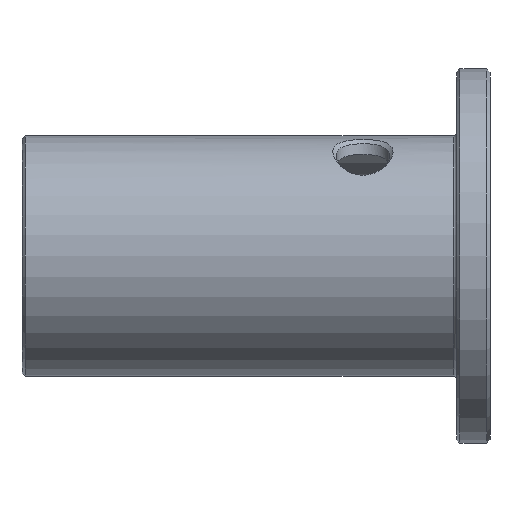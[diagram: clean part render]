
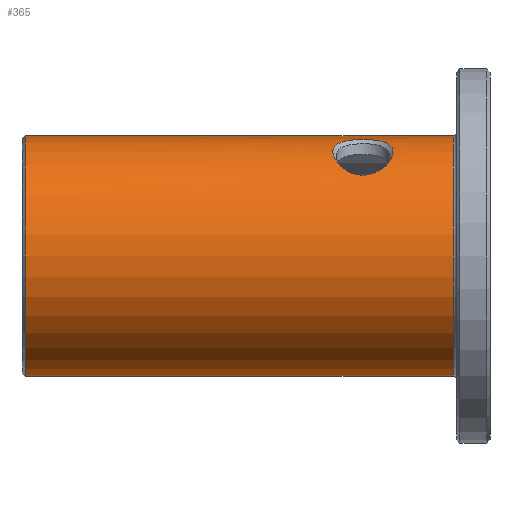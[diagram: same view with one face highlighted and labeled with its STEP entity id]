
A CAD part, left-side view. The second image highlights one B-rep face of the part: STEP entity #365.
In plain terms, the highlighted cylindrical face has radius 18 mm (diameter 36 mm), a full revolution.
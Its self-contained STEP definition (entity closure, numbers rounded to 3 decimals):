
#34=CIRCLE('',#397,18.);
#35=CIRCLE('',#398,18.);
#67=FACE_BOUND('',#149,.T.);
#68=FACE_BOUND('',#150,.T.);
#106=CYLINDRICAL_SURFACE('',#396,18.);
#117=FACE_OUTER_BOUND('',#148,.T.);
#148=EDGE_LOOP('',(#296));
#149=EDGE_LOOP('',(#297));
#150=EDGE_LOOP('',(#298));
#215=B_SPLINE_CURVE_WITH_KNOTS('',3,(#695,#696,#697,#698,#699,#700,#701,
#702,#703,#704,#705,#706,#707,#708,#709,#710,#711,#712,#713,#714,#715,#716),
 .UNSPECIFIED.,.T.,.F.,(4,1,1,1,1,1,1,1,1,1,1,1,1,1,1,1,1,1,1,4),(-2.633,
-2.445,-2.351,-2.257,-2.069,
-1.881,-1.693,-1.599,-1.505,
-1.379,-1.254,-1.129,-1.003,
-0.878,-0.752,-0.564,-0.376,
-0.188,-0.141,0.),
 .UNSPECIFIED.);
#219=VERTEX_POINT('',#670);
#222=VERTEX_POINT('',#758);
#223=VERTEX_POINT('',#760);
#256=EDGE_CURVE('',#219,#219,#215,.T.);
#258=EDGE_CURVE('',#222,#222,#34,.T.);
#259=EDGE_CURVE('',#223,#223,#35,.T.);
#296=ORIENTED_EDGE('',*,*,#258,.F.);
#297=ORIENTED_EDGE('',*,*,#259,.F.);
#298=ORIENTED_EDGE('',*,*,#256,.F.);
#365=ADVANCED_FACE('',(#117,#67,#68),#106,.T.);
#396=AXIS2_PLACEMENT_3D('',#757,#461,#462);
#397=AXIS2_PLACEMENT_3D('',#759,#463,#464);
#398=AXIS2_PLACEMENT_3D('',#761,#465,#466);
#461=DIRECTION('center_axis',(0.,1.,0.));
#462=DIRECTION('ref_axis',(0.,0.,1.));
#463=DIRECTION('center_axis',(0.,-1.,0.));
#464=DIRECTION('ref_axis',(0.,0.,-1.));
#465=DIRECTION('center_axis',(0.,1.,0.));
#466=DIRECTION('ref_axis',(0.,0.,-1.));
#670=CARTESIAN_POINT('',(-4.518,14.,17.424));
#695=CARTESIAN_POINT('Ctrl Pts',(-4.517,14.,17.424));
#696=CARTESIAN_POINT('Ctrl Pts',(-4.516,14.709,17.424));
#697=CARTESIAN_POINT('Ctrl Pts',(-4.799,15.858,17.357));
#698=CARTESIAN_POINT('Ctrl Pts',(-5.653,17.043,17.094));
#699=CARTESIAN_POINT('Ctrl Pts',(-6.685,17.965,16.735));
#700=CARTESIAN_POINT('Ctrl Pts',(-8.362,18.595,15.99));
#701=CARTESIAN_POINT('Ctrl Pts',(-10.155,18.466,14.911));
#702=CARTESIAN_POINT('Ctrl Pts',(-11.546,17.761,13.834));
#703=CARTESIAN_POINT('Ctrl Pts',(-12.353,16.937,13.099));
#704=CARTESIAN_POINT('Ctrl Pts',(-12.951,16.03,12.51));
#705=CARTESIAN_POINT('Ctrl Pts',(-13.356,14.763,12.067));
#706=CARTESIAN_POINT('Ctrl Pts',(-13.363,13.244,12.06));
#707=CARTESIAN_POINT('Ctrl Pts',(-12.902,11.839,12.563));
#708=CARTESIAN_POINT('Ctrl Pts',(-12.172,10.823,13.275));
#709=CARTESIAN_POINT('Ctrl Pts',(-11.272,10.079,14.054));
#710=CARTESIAN_POINT('Ctrl Pts',(-9.948,9.52,15.035));
#711=CARTESIAN_POINT('Ctrl Pts',(-8.366,9.404,15.988));
#712=CARTESIAN_POINT('Ctrl Pts',(-6.361,10.158,16.878));
#713=CARTESIAN_POINT('Ctrl Pts',(-5.285,11.357,17.21));
#714=CARTESIAN_POINT('Ctrl Pts',(-4.649,12.718,17.392));
#715=CARTESIAN_POINT('Ctrl Pts',(-4.518,13.469,17.423));
#716=CARTESIAN_POINT('Ctrl Pts',(-4.517,14.,17.424));
#757=CARTESIAN_POINT('Origin',(0.,32.5,0.));
#758=CARTESIAN_POINT('',(0.,0.5,18.));
#759=CARTESIAN_POINT('Origin',(0.,0.5,0.));
#760=CARTESIAN_POINT('',(0.,64.5,18.));
#761=CARTESIAN_POINT('Origin',(0.,64.5,0.));
